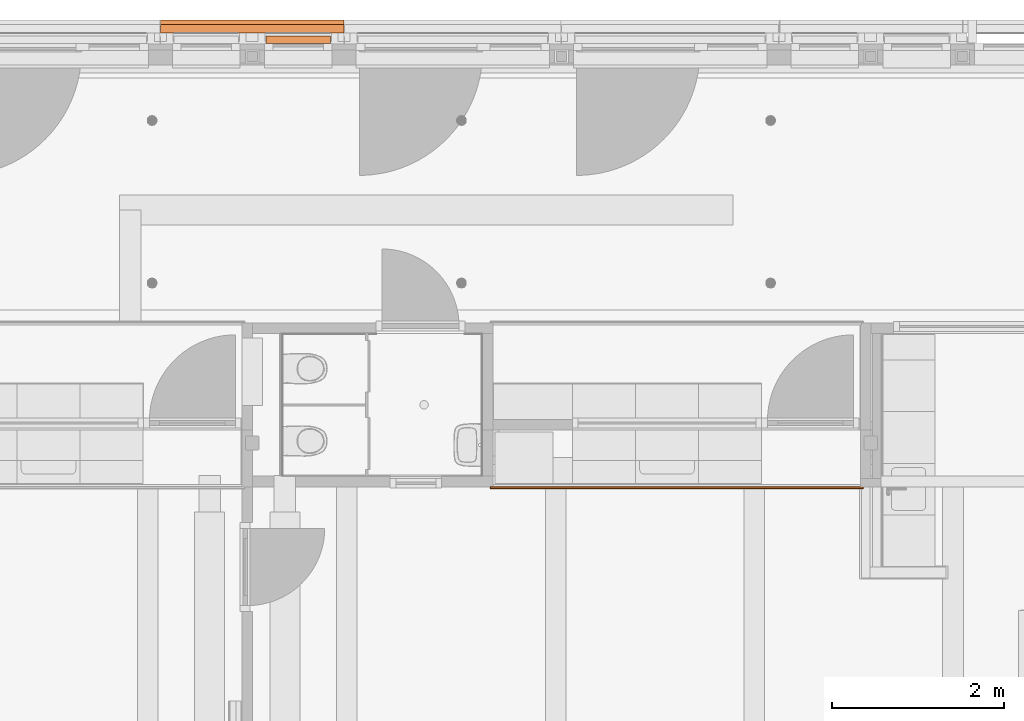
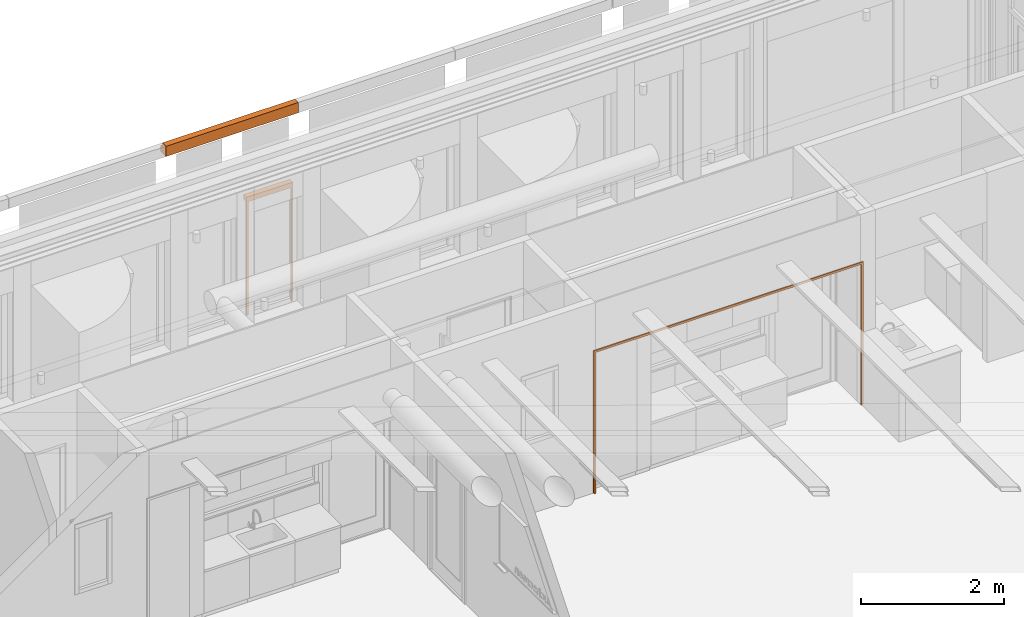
# One storey, part 118 of 128: 3 proxies.
"""IFC2X3 building model written with IfcOpenShell, lengths in millimetres."""

from ifc_helpers import new_model, entity, si_unit, converted_unit, derived_unit, direction, frame, frame_2d, origin, origin_2d_with_axis, place, context, subcontext, project, spatial, polyline, circle_curve, parameter, trimmed, segment, composite_curve, rectangle, outline, extrude, source, transform, mapped, material, material_list, type_object, type_shapes, element, save


model = new_model("IFC2X3")

# Units and contexts
model_context = context("Model", 3, precision=0.01, world=origin(), true_north=direction((6.123031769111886e-17, 1.0)))
body_context = subcontext(model_context, "Body", "Model", "MODEL_VIEW")
ifc_project = project(units=[si_unit("LENGTHUNIT", "METRE", prefix="MILLI"), si_unit("AREAUNIT", "SQUARE_METRE"), si_unit("VOLUMEUNIT", "CUBIC_METRE"), converted_unit("PLANEANGLEUNIT", "DEGREE", entity("IfcRatioMeasure", 0.017453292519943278), si_unit("PLANEANGLEUNIT", "RADIAN"), dimensions=[0, 0, 0, 0, 0, 0, 0]), si_unit("MASSUNIT", "GRAM", prefix="KILO"), derived_unit("MASSDENSITYUNIT", [(si_unit("MASSUNIT", "GRAM", prefix="KILO"), 1), (si_unit("LENGTHUNIT", "METRE"), -3)]), derived_unit("IONCONCENTRATIONUNIT", [(si_unit("MASSUNIT", "GRAM", prefix="KILO"), 1), (si_unit("LENGTHUNIT", "METRE"), -3)]), derived_unit("MOMENTOFINERTIAUNIT", [(si_unit("LENGTHUNIT", "METRE"), 4)]), si_unit("TIMEUNIT", "SECOND"), si_unit("FREQUENCYUNIT", "HERTZ"), si_unit("THERMODYNAMICTEMPERATUREUNIT", "DEGREE_CELSIUS"), derived_unit("THERMALTRANSMITTANCEUNIT", [(si_unit("MASSUNIT", "GRAM", prefix="KILO"), 1), (si_unit("THERMODYNAMICTEMPERATUREUNIT", "KELVIN"), -1), (si_unit("TIMEUNIT", "SECOND"), -3)]), derived_unit("THERMALCONDUCTANCEUNIT", [(si_unit("MASSUNIT", "GRAM", prefix="KILO"), 1), (si_unit("THERMODYNAMICTEMPERATUREUNIT", "KELVIN"), -1), (si_unit("TIMEUNIT", "SECOND"), -3), (si_unit("LENGTHUNIT", "METRE"), 1)]), derived_unit("VOLUMETRICFLOWRATEUNIT", [(si_unit("LENGTHUNIT", "METRE"), 3), (si_unit("TIMEUNIT", "SECOND"), -1)]), derived_unit("MASSFLOWRATEUNIT", [(si_unit("MASSUNIT", "GRAM", prefix="KILO"), 1), (si_unit("TIMEUNIT", "SECOND"), -1)]), derived_unit("ROTATIONALFREQUENCYUNIT", [(si_unit("TIMEUNIT", "SECOND"), -1)]), si_unit("ELECTRICCURRENTUNIT", "AMPERE"), si_unit("ELECTRICVOLTAGEUNIT", "VOLT"), si_unit("POWERUNIT", "WATT"), si_unit("FORCEUNIT", "NEWTON", prefix="KILO"), si_unit("ILLUMINANCEUNIT", "LUX"), si_unit("LUMINOUSFLUXUNIT", "LUMEN"), si_unit("LUMINOUSINTENSITYUNIT", "CANDELA"), derived_unit("USERDEFINED", [(si_unit("MASSUNIT", "GRAM", prefix="KILO"), -1), (si_unit("LENGTHUNIT", "METRE"), -2), (si_unit("TIMEUNIT", "SECOND"), 3), (si_unit("LUMINOUSFLUXUNIT", "LUMEN"), 1)]), derived_unit("USERDEFINED", [(si_unit("MASSUNIT", "GRAM", prefix="KILO"), 1), (si_unit("TIMEUNIT", "SECOND"), -3), (si_unit("LENGTHUNIT", "METRE"), 3), (si_unit("ELECTRICCURRENTUNIT", "AMPERE"), -2)]), derived_unit("SOUNDPOWERUNIT", [(si_unit("MASSUNIT", "GRAM", prefix="KILO"), 1), (si_unit("TIMEUNIT", "SECOND"), -3), (si_unit("LENGTHUNIT", "METRE"), 2)]), derived_unit("SOUNDPRESSUREUNIT", [(si_unit("MASSUNIT", "GRAM", prefix="KILO"), 1), (si_unit("LENGTHUNIT", "METRE"), -1), (si_unit("TIMEUNIT", "SECOND"), -2)]), derived_unit("LINEARVELOCITYUNIT", [(si_unit("LENGTHUNIT", "METRE"), 1), (si_unit("TIMEUNIT", "SECOND"), -1)]), si_unit("PRESSUREUNIT", "PASCAL"), derived_unit("USERDEFINED", [(si_unit("MASSUNIT", "GRAM", prefix="KILO"), 1), (si_unit("LENGTHUNIT", "METRE"), -2), (si_unit("TIMEUNIT", "SECOND"), -2)]), derived_unit("LINEARFORCEUNIT", [(si_unit("MASSUNIT", "GRAM", prefix="KILO"), 1), (si_unit("TIMEUNIT", "SECOND"), -2)]), derived_unit("PLANARFORCEUNIT", [(si_unit("MASSUNIT", "GRAM", prefix="KILO"), 1), (si_unit("LENGTHUNIT", "METRE"), -1), (si_unit("TIMEUNIT", "SECOND"), -2)]), derived_unit("SPECIFICHEATCAPACITYUNIT", [(si_unit("THERMODYNAMICTEMPERATUREUNIT", "KELVIN"), -1), (si_unit("LENGTHUNIT", "METRE"), 2), (si_unit("TIMEUNIT", "SECOND"), -2)]), derived_unit("HEATINGVALUEUNIT", [(si_unit("LENGTHUNIT", "METRE"), 2), (si_unit("TIMEUNIT", "SECOND"), -2)]), derived_unit("VAPORPERMEABILITYUNIT", [(si_unit("LENGTHUNIT", "METRE"), -1), (si_unit("TIMEUNIT", "SECOND"), 1)]), derived_unit("DYNAMICVISCOSITYUNIT", [(si_unit("MASSUNIT", "GRAM", prefix="KILO"), 1), (si_unit("TIMEUNIT", "SECOND"), -1), (si_unit("LENGTHUNIT", "METRE"), -1)]), derived_unit("THERMALEXPANSIONCOEFFICIENTUNIT", [(si_unit("THERMODYNAMICTEMPERATUREUNIT", "KELVIN"), -1)]), derived_unit("MODULUSOFELASTICITYUNIT", [(si_unit("MASSUNIT", "GRAM", prefix="KILO"), 1), (si_unit("LENGTHUNIT", "METRE"), -1), (si_unit("TIMEUNIT", "SECOND"), -2)]), derived_unit("ISOTHERMALMOISTURECAPACITYUNIT", [(si_unit("LENGTHUNIT", "METRE"), 3), (si_unit("MASSUNIT", "GRAM", prefix="KILO"), -1)]), derived_unit("MOISTUREDIFFUSIVITYUNIT", [(si_unit("TIMEUNIT", "SECOND"), -1), (si_unit("LENGTHUNIT", "METRE"), 2)])], contexts=[model_context])

# Site, building, storey
site_placement = place(None, frame((0.0, 300.0, 0.0)))
site = spatial("IfcSite", under=ifc_project, at=site_placement, Name="<Kadastrale nummers>", CompositionType="ELEMENT")
building_placement = place(site_placement, origin())
building = spatial("IfcBuilding", under=site, at=building_placement, CompositionType="ELEMENT")
storey_placement = place(building_placement, frame((0.0, 0.0, 3560.0000331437)))
storey = spatial("IfcBuildingStorey", under=building, at=storey_placement, Name="01 eerste verdieping", CompositionType="ELEMENT", Elevation=3560.0000331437)

# Proxy
ifc_material_1 = material(Name="STAAL_RAL 7006")
ifc_material_2 = material(Name="<Unnamed>")
ifc_material_list = material_list([ifc_material_1, ifc_material_2])
building_element_proxy_type_1 = type_object("IfcBuildingElementProxyType", Name="31_DAT_Screen_zonwering_bak85:31_DAT_Screen_zonwering_bak85", PredefinedType="NOTDEFINED", material=ifc_material_list)
shared_shape_1 = source(origin(), body_context, "Body", "SweptSolid", [
    extrude(outline(polyline([(-60.69864841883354, -53.573897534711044), (20.695945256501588, -53.573897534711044), (20.695945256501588, 1.1216926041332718), (22.501351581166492, 1.1216926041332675), (22.501351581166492, 24.626102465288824), (17.501351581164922, 24.626102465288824), (17.501351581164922, 27.826102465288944), (-60.69864841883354, 27.826102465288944), (-60.69864841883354, -53.573897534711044)])), frame((748.0, -29.62610246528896, 2752.501351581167), z_axis=(1.0, 0.0, 0.0), x_axis=(0.0, 0.0, -1.0)), (0.0, 0.0, 1.0), 1.9999999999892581),
    extrude(outline(polyline([(-55.83243227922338, -51.08259835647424), (29.167567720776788, -51.08259835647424), (29.167567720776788, 5.412991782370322), (27.362161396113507, 5.412991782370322), (27.362161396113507, -49.28259835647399), (-54.032432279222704, -49.28259835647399), (-54.032432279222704, 32.117401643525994), (24.16756772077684, 32.117401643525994), (24.16756772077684, 28.91740164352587), (29.167567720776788, 28.91740164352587), (29.167567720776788, 33.917401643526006), (-55.83243227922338, 33.917401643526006), (-55.83243227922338, -51.08259835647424)])), frame((0.0, -33.917401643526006, 2759.1675677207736), z_axis=(1.0, 0.0, 0.0), x_axis=(0.0, 0.0, -1.0)), (0.0, 0.0, 1.0), 749.9999999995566),
    extrude(outline(polyline([(-60.69864841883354, -53.573897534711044), (20.695945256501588, -53.573897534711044), (20.695945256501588, 1.1216926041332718), (22.501351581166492, 1.1216926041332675), (22.501351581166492, 24.626102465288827), (17.501351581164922, 24.626102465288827), (17.501351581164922, 27.826102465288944), (-60.69864841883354, 27.826102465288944), (-60.69864841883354, -53.573897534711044)])), frame((0.0, -29.62610246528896, 2752.501351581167), z_axis=(1.0, 0.0, 0.0), x_axis=(0.0, 0.0, -1.0)), (0.0, 0.0, 1.0), 1.999999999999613),
    extrude(rectangle(XDim=709.9999999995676, YDim=1.163311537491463, at=frame_2d((0.0, -2.1094237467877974e-15), x_axis=(1.0, 0.0))), frame((375.0, -20.037293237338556, 2730.0)), (0.0, 0.0, 1.0), 61.996041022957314),
    extrude(outline(composite_curve([segment(polyline([(-7.502327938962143, -23.023758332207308), (7.497672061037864, -23.023758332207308)]), True, "CONTINUOUS"), segment(trimmed(circle_curve(frame_2d((7.497672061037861, -21.523758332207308), x_axis=(0.0, -1.0)), 1.4999999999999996), [parameter(359.99999999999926)], [parameter(90.00000000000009)], True, "PARAMETER"), True, "CONTINUOUS"), segment(polyline([(8.997672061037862, -21.523758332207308), (8.997672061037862, 8.976241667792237)]), True, "CONTINUOUS"), segment(trimmed(circle_curve(frame_2d((5.99767206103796, 8.976241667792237), x_axis=(0.0, -1.0)), 3.0), [parameter(90.00000000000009)], [parameter(172.84454900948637)], True, "PARAMETER"), True, "CONTINUOUS"), segment(polyline([(6.371357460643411, 11.952877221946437), (2.232090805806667, 12.470504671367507)]), True, "CONTINUOUS"), segment(trimmed(circle_curve(frame_2d((2.1399803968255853, 11.733933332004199), x_axis=(0.0, -1.0)), 0.7423083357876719), [parameter(172.87199730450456)], [parameter(323.5235343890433)], True, "PARAMETER"), True, "CONTINUOUS"), segment(trimmed(circle_curve(frame_2d((-0.0023279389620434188, 8.976241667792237), x_axis=(0.0, -1.0)), 2.75), [parameter(217.47327986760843)], [parameter(141.78969998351)], True, "PARAMETER"), False, "CONTINUOUS"), segment(trimmed(circle_curve(frame_2d((-2.144636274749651, 11.733933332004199), x_axis=(0.0, -1.0)), 0.7423083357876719), [parameter(39.207114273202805)], [parameter(187.12800269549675)], True, "PARAMETER"), True, "CONTINUOUS"), segment(polyline([(-2.2367466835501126, 12.470504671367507), (-6.376013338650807, 11.95287722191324)]), True, "CONTINUOUS"), segment(trimmed(circle_curve(frame_2d((-6.002327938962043, 8.976241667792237), x_axis=(0.0, -1.0)), 3.0), [parameter(187.1554509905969)], [parameter(269.9999999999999)], True, "PARAMETER"), True, "CONTINUOUS"), segment(polyline([(-9.002327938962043, 8.976241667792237), (-9.002327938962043, -21.523758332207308)]), True, "CONTINUOUS"), segment(trimmed(circle_curve(frame_2d((-7.502327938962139, -21.523758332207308), x_axis=(0.0, -1.0)), 1.5000000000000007), [parameter(269.9999999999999)], [parameter(359.9999999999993)], True, "PARAMETER"), True, "CONTINUOUS")], self_intersect=False)), frame((20.0, -19.997672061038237, 2785.0197993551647), z_axis=(1.0, 0.0, 0.0), x_axis=(0.0, 1.0, 0.0)), (0.0, 0.0, 1.0), 709.9999999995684),
    extrude(outline(polyline([(-14.638298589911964, -16.231574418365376), (-13.138298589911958, -16.231574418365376), (-13.138298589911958, 12.232729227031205), (-6.116685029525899, 12.232729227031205), (-6.116685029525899, -6.231574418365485), (-1.116685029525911, -6.231574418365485), (-1.116685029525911, -4.769580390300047), (-4.579546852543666, -4.769580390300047), (-4.579546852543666, 12.23272922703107), (13.86611127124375, 12.23272922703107), (13.86611127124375, -4.769580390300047), (10.36170141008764, -4.769580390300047), (10.36170141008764, -6.2315744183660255), (15.36170141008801, -6.2315744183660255), (15.36170141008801, 13.768425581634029), (-14.638298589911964, 13.768425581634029), (-14.638298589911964, -16.231574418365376)])), frame((736.2315744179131, -14.638298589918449, 800.0), z_axis=(0.0, 0.0, 1.0), x_axis=(0.0, -1.0, 0.0)), (0.0, 0.0, 1.0), 1930.000000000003),
    extrude(outline(polyline([(-16.231574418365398, -14.638298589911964), (13.768425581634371, -14.638298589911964), (13.76842558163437, 15.361701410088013), (-6.231574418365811, 15.361701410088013), (-6.231574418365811, 10.361701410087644), (-4.769580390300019, 10.361701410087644), (-4.769580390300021, 13.866111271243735), (12.2327292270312, 13.866111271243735), (12.2327292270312, -4.57954685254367), (-4.769580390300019, -4.57954685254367), (-4.769580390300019, -1.1166850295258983), (-6.231574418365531, -1.1166850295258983), (-6.231574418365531, -6.116685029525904), (12.232729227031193, -6.116685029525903), (12.232729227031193, -13.138298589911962), (-16.231574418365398, -13.138298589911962), (-16.231574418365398, -14.638298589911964)])), frame((13.768425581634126, -14.638298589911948, 800.0), z_axis=(0.0, 0.0, 1.0), x_axis=(-1.0, 0.0, 0.0)), (0.0, 0.0, 1.0), 1930.0000000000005),
])
type_shapes(building_element_proxy_type_1, [shared_shape_1])
proxy_1_placement = place(storey_placement, frame((25510.0, 49951.0, 100.00000187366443), z_axis=(0.0, 0.0, 1.0), x_axis=(-1.0, 0.0, 0.0)))
element("IfcBuildingElementProxy", 1, at=proxy_1_placement, inside=storey, type_object=building_element_proxy_type_1, material=ifc_material_list, Name="31_DAT_Screen_zonwering_bak85:31_DAT_Screen_zonwering_bak85", ObjectType="31_DAT_Screen_zonwering_bak85:31_DAT_Screen_zonwering_bak85", context=body_context, shape_type="MappedRepresentation", body=[
    mapped(shared_shape_1, transform((0.0, 0.0, 0.0), scale=1.0)),
])

# Space
space_placement = place(storey_placement, origin())
space = spatial("IfcSpace", under=storey, at=space_placement, Name="1.04", CompositionType="ELEMENT", InteriorOrExteriorSpace="INTERNAL")

# Proxies
ifc_material_3 = material(Name="ISR_HPL Kleur hout")
building_element_proxy_type_2 = type_object("IfcBuildingElementProxyType", Name="82_DAT_Trimlat om element:82_DAT_Trimlat om element", PredefinedType="NOTDEFINED", material=ifc_material_3)
shared_shape_2 = source(origin(), body_context, "Body", "SweptSolid", [
    extrude(rectangle(XDim=19.999999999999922, YDim=34.99999999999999, at=origin_2d_with_axis()), frame((-17.500000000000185, -10.0, 0.0), z_axis=(0.0, 0.0, 1.0), x_axis=(0.0, 1.0, 0.0)), (0.0, 0.0, 1.0), 2400.000000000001),
    extrude(rectangle(XDim=20.000000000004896, YDim=34.99999999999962, at=frame_2d((0.0, -5.400124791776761e-13), x_axis=(1.0, 0.0))), frame((4292.49999999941, -10.0, 0.0), z_axis=(0.0, 0.0, 1.0), x_axis=(0.0, 1.0, 0.0)), (0.0, 0.0, 1.0), 2400.000000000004),
    extrude(rectangle(XDim=19.99999999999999, YDim=4344.999999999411, at=frame_2d((0.0, -2.2737367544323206e-13), x_axis=(1.0, 0.0))), frame((2137.499999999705, -10.0, 2400.0), z_axis=(0.0, 0.0, 1.0), x_axis=(0.0, 1.0, 0.0)), (0.0, 0.0, 1.0), 34.99999999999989),
])
type_shapes(building_element_proxy_type_2, [shared_shape_2])
proxy_2_placement = place(space_placement, frame((27405.0, 44790.0, 90.00000187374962)))
element("IfcBuildingElementProxy", 2, at=proxy_2_placement, inside=space, type_object=building_element_proxy_type_2, material=ifc_material_3, Name="82_DAT_Trimlat om element:82_DAT_Trimlat om element", ObjectType="82_DAT_Trimlat om element:82_DAT_Trimlat om element", context=body_context, shape_type="MappedRepresentation", body=[
    mapped(shared_shape_2, transform((0.0, 0.0, 0.0), scale=1.0)),
])
ifc_material_4 = material(Name="ISR_Beton_prefab")
building_element_proxy_type_3 = type_object("IfcBuildingElementProxyType", Name="29_DAT_Prefab betonband afgeschuind:29_DAT_Prefab betonband afgeschuind", PredefinedType="NOTDEFINED", material=ifc_material_4)
shared_shape_3 = source(origin(), body_context, "Body", "SweptSolid", [
    extrude(outline(polyline([(-94.16666666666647, -83.33333333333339), (80.83333333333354, -83.33333333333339), (80.83333333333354, 16.66666666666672), (18.33333333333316, 16.666666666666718), (8.333333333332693, 66.66666666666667), (-94.16666666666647, 66.66666666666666), (-94.16666666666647, -83.33333333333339)])), frame((0.0, 16.66666666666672, -18.33333333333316), z_axis=(1.0, 0.0, 0.0), x_axis=(0.0, 0.0, 1.0)), (0.0, 0.0, 1.0), 2133.999999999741),
])
type_shapes(building_element_proxy_type_3, [shared_shape_3])
proxy_3_placement = place(storey_placement, frame((25667.0, 50175.0, 4077.499966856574), z_axis=(0.0, 0.0, 1.0), x_axis=(-1.0, 0.0, 0.0)))
element("IfcBuildingElementProxy", 3, at=proxy_3_placement, inside=storey, type_object=building_element_proxy_type_3, material=ifc_material_4, Name="29_DAT_Prefab betonband afgeschuind:29_DAT_Prefab betonband afgeschuind", ObjectType="29_DAT_Prefab betonband afgeschuind:29_DAT_Prefab betonband afgeschuind", context=body_context, shape_type="MappedRepresentation", body=[
    mapped(shared_shape_3, transform((0.0, 0.0, 0.0), scale=1.0)),
])

save(model, "model.ifc")
